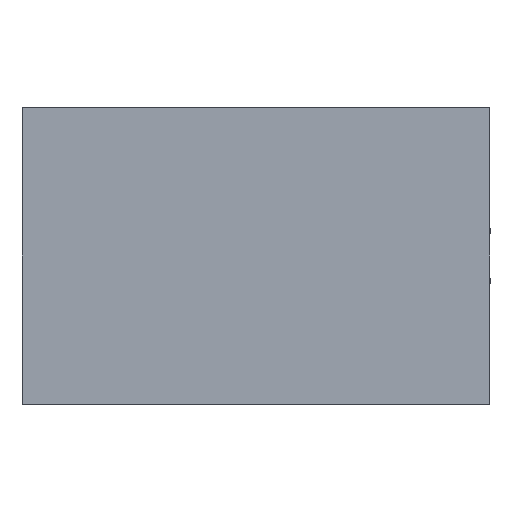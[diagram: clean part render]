
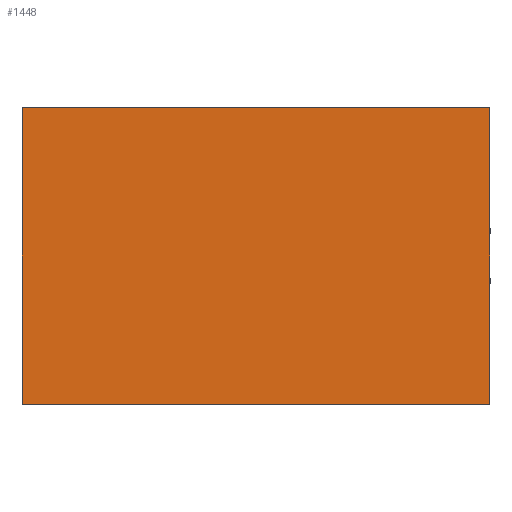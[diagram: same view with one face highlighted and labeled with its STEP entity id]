
A CAD part, front view. The second image highlights one B-rep face of the part: STEP entity #1448.
In plain terms, the highlighted planar face has unit normal (0, -1, 0).
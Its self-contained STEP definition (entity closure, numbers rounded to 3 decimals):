
#1244=CARTESIAN_POINT('',(0.0,-375.,-95.));
#1245=VERTEX_POINT('',#1244);
#1252=CARTESIAN_POINT('',(0.0,-375.0,95.));
#1253=VERTEX_POINT('',#1252);
#1254=CARTESIAN_POINT('',(0.0,-375.0,-95.));
#1255=DIRECTION('',(0.0,0.0,1.0));
#1256=VECTOR('',#1255,190.);
#1257=LINE('',#1254,#1256);
#1258=EDGE_CURVE('',#1245,#1253,#1257,.T.);
#1365=CARTESIAN_POINT('',(300.0,-375.0,95.));
#1366=VERTEX_POINT('',#1365);
#1375=CARTESIAN_POINT('',(0.0,-375.0,95.));
#1376=DIRECTION('',(1.0,0.0,0.0));
#1377=VECTOR('',#1376,300.0);
#1378=LINE('',#1375,#1377);
#1379=EDGE_CURVE('',#1253,#1366,#1378,.T.);
#1413=CARTESIAN_POINT('',(300.0,-375.,-95.));
#1414=VERTEX_POINT('',#1413);
#1421=CARTESIAN_POINT('',(0.0,-375.,-95.));
#1422=DIRECTION('',(1.0,0.0,0.0));
#1423=VECTOR('',#1422,300.0);
#1424=LINE('',#1421,#1423);
#1425=EDGE_CURVE('',#1245,#1414,#1424,.T.);
#1432=CARTESIAN_POINT('',(0.0,-375.0,0.));
#1433=DIRECTION('',(0.0,-1.0,0.0));
#1434=DIRECTION('',(0.0,0.0,-1.0));
#1435=AXIS2_PLACEMENT_3D('',#1432,#1433,#1434);
#1436=PLANE('',#1435);
#1437=CARTESIAN_POINT('',(300.0,-375.0,-95.));
#1438=DIRECTION('',(0.0,0.0,1.0));
#1439=VECTOR('',#1438,190.);
#1440=LINE('',#1437,#1439);
#1441=EDGE_CURVE('',#1414,#1366,#1440,.T.);
#1442=ORIENTED_EDGE('',*,*,#1441,.T.);
#1443=ORIENTED_EDGE('',*,*,#1379,.F.);
#1444=ORIENTED_EDGE('',*,*,#1258,.F.);
#1445=ORIENTED_EDGE('',*,*,#1425,.T.);
#1446=EDGE_LOOP('',(#1442,#1443,#1444,#1445));
#1447=FACE_OUTER_BOUND('',#1446,.T.);
#1448=ADVANCED_FACE('',(#1447),#1436,.T.);
